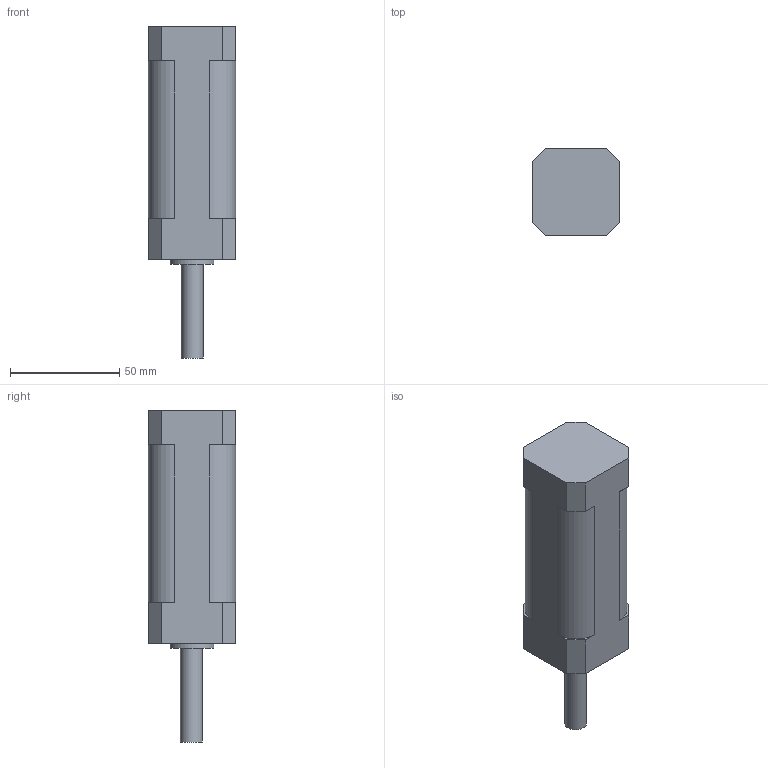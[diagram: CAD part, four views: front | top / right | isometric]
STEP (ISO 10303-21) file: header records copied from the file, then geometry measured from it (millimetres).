
FILE_DESCRIPTION(/* description */ ('STEP AP242 Edition 2','CAx-IF Rec.Pracs.---Representation and Presentation of Product Manufacturing Information (PMI)---4.0---2014-10-13','CAx-IF Rec.Pracs.---3D Tessellated Geometry---0.4---2014-09-14','2;1','CAx-IF Rec.Pracs.---User Defined Attributes---1.5---2016-08-15'),/* implementation_level */ '2;1');
FILE_NAME(/* name */ 'Spindle',/* time_stamp */ '2025-11-29T19:49:21Z',/* author */ (''),/* organization */ (''),/* preprocessor_version */ 'ST-DEVELOPER v20',/* originating_system */ 'ONSHAPE BY PTC INC, 1.207',/* authorisation */ ' ');
FILE_SCHEMA (('AP242_MANAGED_MODEL_BASED_3D_ENGINEERING_MIM_LF { 1 0 10303 442 3 1 4 }'));
Length unit declared in the file: metre
Products named in the file (1): Part 1
Bounding box: 40 x 40 x 152 mm (x, y, z)
Volume: 137345.9 mm3; surface area: 28853.3 mm2
Topology: 1 solids, 6 shells, 53 faces, 105 edges, 70 vertices
Faces by surface type: plane 38, cylinder 15
Full cylindrical faces by diameter (mm): 4 x8, 10 x1, 20 x2
Entity records: 1326 total; most frequent: DIRECTION 232, CARTESIAN_POINT 218, ORIENTED_EDGE 188, EDGE_CURVE 94, AXIS2_PLACEMENT_3D 84, VERTEX_POINT 70, EDGE_LOOP 70, FACE_BOUND 70
